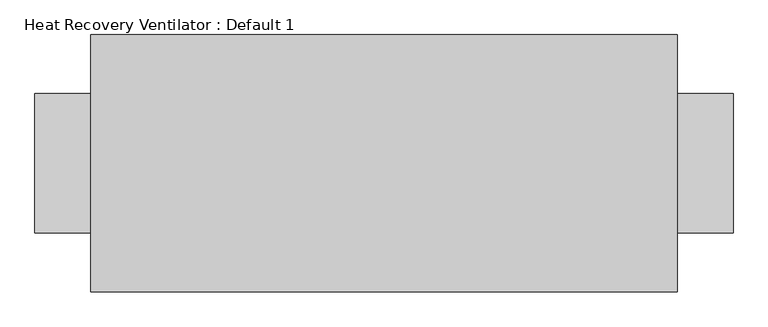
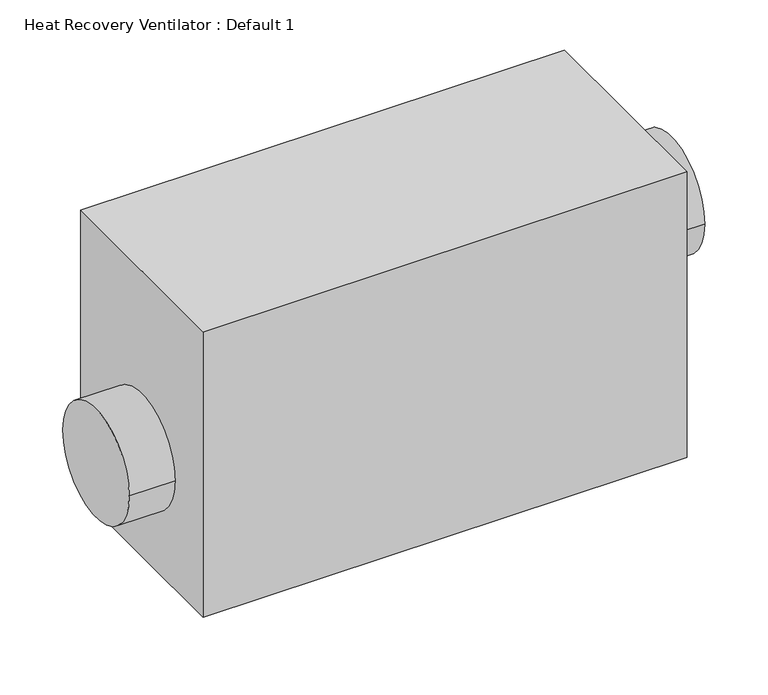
"""IFC4 building model written with IfcOpenShell, lengths in millimetres: proxy geometry, Heat Recovery Ventilator : Default 1."""

from ifc_helpers import new_model, si_unit, point, frame, frame_2d, origin, place, context, project, spatial, polyline, circle_curve, trimmed, segment, composite_curve, outline, extrude, source, transform, mapped, element, save


def heat_recovery_ventilator_default_1_e4db727e(model_context):
    return source(origin(), model_context, "Body", "SweptSolid", [
        extrude(outline(composite_curve([segment(trimmed(circle_curve(frame_2d((269.875, 1422.4)), 101.6), [point((168.275, 1422.4))], [point((371.475, 1422.4))], False, "CARTESIAN"), True, "CONTINUOUS"), segment(trimmed(circle_curve(frame_2d((269.875, 1422.4)), 101.6), [point((371.475, 1422.4))], [point((168.275, 1422.4))], False, "CARTESIAN"), True, "CONTINUOUS")], self_intersect=False)), frame((-383.0, 0.0, 0.0), z_axis=(1.0, 0.0, 0.0), x_axis=(0.0, 1.0, 0.0)), (0.0, 0.0, 1.0), 80.9625),
        extrude(outline(composite_curve([segment(trimmed(circle_curve(frame_2d((269.875, 1574.8)), 101.6), [point((168.275, 1574.8))], [point((371.475, 1574.8))], False, "CARTESIAN"), True, "CONTINUOUS"), segment(trimmed(circle_curve(frame_2d((269.875, 1574.8)), 101.6), [point((371.475, 1574.8))], [point((168.275, 1574.8))], False, "CARTESIAN"), True, "CONTINUOUS")], self_intersect=False)), frame((552.0375, 0.0, 0.0), z_axis=(1.0, 0.0, 0.0), x_axis=(0.0, 1.0, 0.0)), (0.0, 0.0, 1.0), 80.9625),
        extrude(outline(composite_curve([segment(trimmed(circle_curve(frame_2d((348.8375, 269.875)), 101.6), [point((450.4375, 269.875))], [point((247.2375, 269.875))], False, "CARTESIAN"), True, "CONTINUOUS"), segment(trimmed(circle_curve(frame_2d((348.8375, 269.875)), 101.6), [point((247.2375, 269.875))], [point((450.4375, 269.875))], False, "CARTESIAN"), True, "CONTINUOUS")], self_intersect=False)), frame((0.0, 0.0, 1168.4), z_axis=(0.0, 0.0, 1.0), x_axis=(1.0, 0.0, 0.0)), (0.0, 0.0, 1.0), 50.8),
        extrude(outline(composite_curve([segment(trimmed(circle_curve(frame_2d((-98.8375, 269.875)), 101.6), [point((-200.4375, 269.875))], [point((2.7625, 269.875))], False, "CARTESIAN"), True, "CONTINUOUS"), segment(trimmed(circle_curve(frame_2d((-98.8375, 269.875)), 101.6), [point((2.7625, 269.875))], [point((-200.4375, 269.875))], False, "CARTESIAN"), True, "CONTINUOUS")], self_intersect=False)), frame((0.0, 0.0, 1168.4), z_axis=(0.0, 0.0, 1.0), x_axis=(1.0, 0.0, 0.0)), (0.0, 0.0, 1.0), 50.8),
        extrude(outline(polyline([(552.0375, 457.2), (552.0375, 82.55), (-302.0375, 82.55), (-302.0375, 457.2), (552.0375, 457.2)])), frame((0.0, 0.0, 1219.2), z_axis=(0.0, 0.0, 1.0), x_axis=(1.0, 0.0, 0.0)), (0.0, 0.0, 1.0), 533.4),
    ])


if __name__ == "__main__":
    model = new_model("IFC4")
    model_context = context("Model", 3, world=origin())
    ifc_project = project(units=[si_unit("LENGTHUNIT", "METRE", prefix="MILLI")], contexts=[model_context])
    site = spatial("IfcSite", under=ifc_project)
    building = spatial("IfcBuilding", under=site)
    placement = place(None, origin())
    heat_recovery_ventilator_default_1_shape = heat_recovery_ventilator_default_1_e4db727e(model_context)
    element("IfcBuildingElementProxy", 1, Name="Heat Recovery Ventilator : Default 1", ObjectType="Heat Recovery Ventilator : Default 1", at=placement, inside=building, context=model_context, shape_type="MappedRepresentation", body=[
        mapped(heat_recovery_ventilator_default_1_shape, transform((0.0, 0.0, 0.0), x_axis=(1.0, 0.0, 0.0), y_axis=(0.0, 1.0, 0.0), z_axis=(0.0, 0.0, 1.0))),
    ])
    save(model, "model.ifc")
